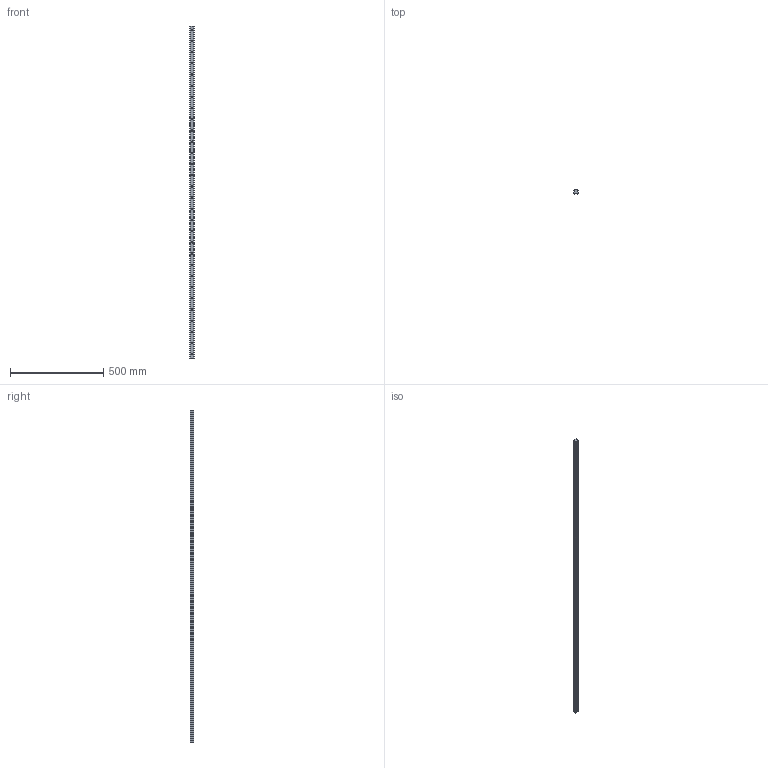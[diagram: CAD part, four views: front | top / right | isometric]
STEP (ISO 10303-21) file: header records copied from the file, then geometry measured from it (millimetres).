
FILE_DESCRIPTION (( 'STEP AP203' ), '1' );
FILE_NAME ('L1016.BL25-1780.step', '2019-06-12T12:08:53', ( '' ), ( '' ), 'SwSTEP 2.0', 'SolidWorks 2017', '' );
FILE_SCHEMA (( 'CONFIG_CONTROL_DESIGN' ));
Length unit declared in the file: millimetre
Products named in the file (1): L1016.BL25-1780
Bounding box: 23 x 19.2 x 1780 mm (x, y, z)
Volume: 655794.6 mm3; surface area: 168784 mm2
Topology: 1 solids, 1 shells, 176 faces, 432 edges, 288 vertices
Faces by surface type: cylinder 124, plane 52
Entity records: 5521 total; most frequent: DIRECTION 1034, CARTESIAN_POINT 897, ORIENTED_EDGE 864, EDGE_CURVE 432, AXIS2_PLACEMENT_3D 425, VERTEX_POINT 288, EDGE_LOOP 266, CIRCLE 248
